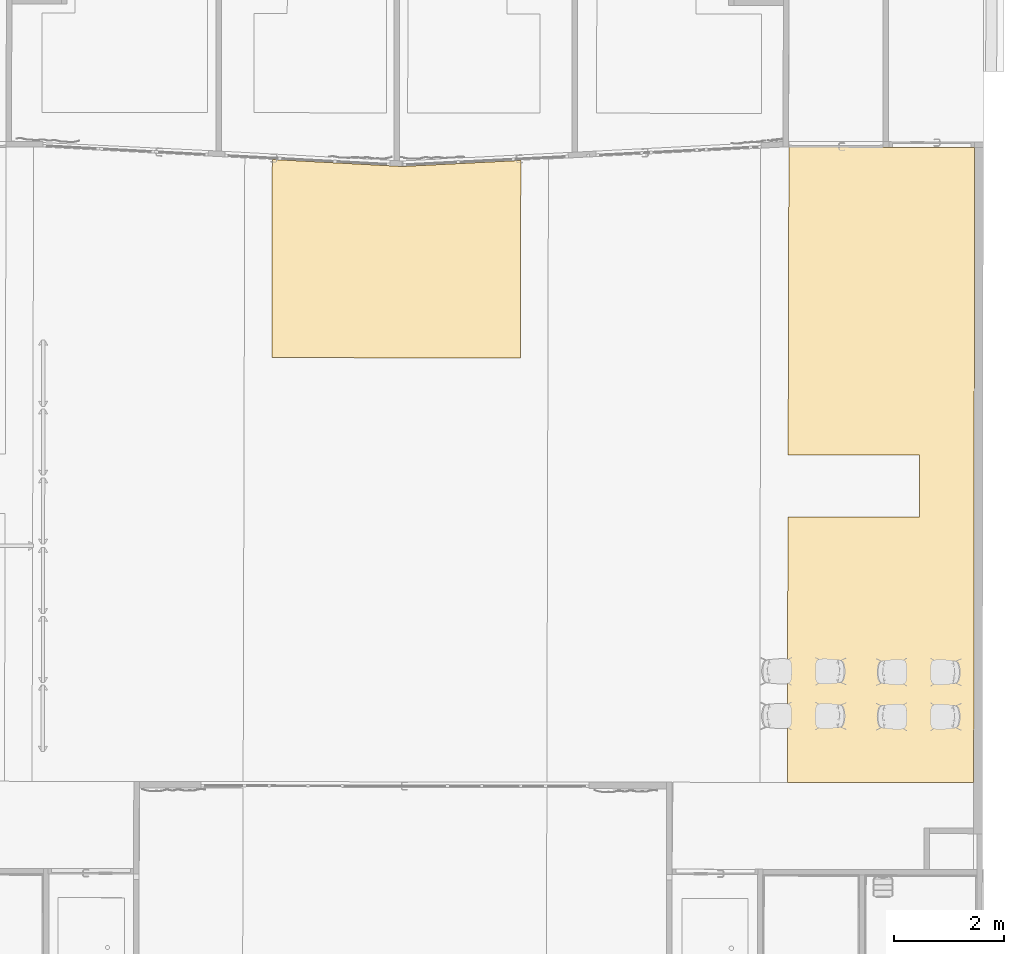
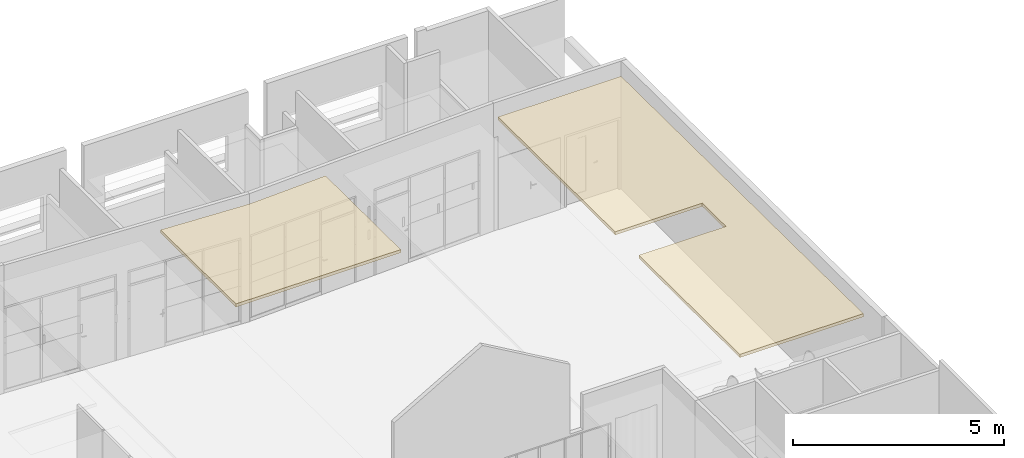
# One storey, part 34 of 43: 2 coverings.
"""IFC2X3 building model written with IfcOpenShell, lengths in metres."""

from ifc_helpers import new_model, entity, si_unit, converted_unit, derived_unit, direction, frame, origin, place, context, subcontext, project, spatial, faceted_brep, material, layer, layer_set, layer_usage, type_object, element, save


model = new_model("IFC2X3")

# Units and contexts
model_context = context("Model", 3, precision=1e-05, world=origin(), true_north=direction((6.123233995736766e-17, 1.0)))
body_context = subcontext(model_context, "Body", "Model", "MODEL_VIEW")
ifc_project = project(units=[si_unit("LENGTHUNIT", "METRE"), si_unit("AREAUNIT", "SQUARE_METRE"), converted_unit("PLANEANGLEUNIT", "DEGREE", entity("IfcPlaneAngleMeasure", 0.017453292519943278), si_unit("PLANEANGLEUNIT", "RADIAN"), dimensions=[0, 0, 0, 0, 0, 0, 0]), derived_unit("THERMALTRANSMITTANCEUNIT", [(si_unit("MASSUNIT", "GRAM", prefix="KILO"), 1), (si_unit("THERMODYNAMICTEMPERATUREUNIT", "KELVIN"), -1), (si_unit("TIMEUNIT", "SECOND"), -3)])], contexts=[model_context])

# Site, building, storey
site_placement = place(None, frame((1253.6752467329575, 2072.143113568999, 91.49999999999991), z_axis=(0.0, 0.0, 1.0), x_axis=(0.7237211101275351, 0.6900925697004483, 0.0)))
site = spatial("IfcSite", under=ifc_project, at=site_placement, Name="Surface", CompositionType="ELEMENT")
building_placement = place(site_placement, origin())
building = spatial("IfcBuilding", under=site, at=building_placement, CompositionType="ELEMENT")
storey_placement = place(building_placement, frame((0.0, 0.0, -4.629999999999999)))
storey = spatial("IfcBuildingStorey", under=building, at=storey_placement, Name="rez de rue -1.10m", CompositionType="ELEMENT", Elevation=-4.629999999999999)

# Coverings
ifc_material_1 = material(Name="Faux-plafond - Trame 600 x 600")
ifc_layer_1 = layer(ifc_material_1, 0.04)
ifc_material_2 = material(Name="Faux-plafond - Trame 600 x 1200")
ifc_layer_2 = layer(ifc_material_2, 0.05)
ifc_layer_set = layer_set([ifc_layer_1, ifc_layer_2], Name="Plafond composé:Dalles 60x120")
ifc_layer_usage_1 = layer_usage(ifc_layer_set, "AXIS3", "NEGATIVE", 0.09000000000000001)
covering_type = type_object("IfcCoveringType", Name="Plafond composé:Dalles 60x120", PredefinedType="CEILING")
covering_1_placement = place(storey_placement, frame((178.3074971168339, -7.7542457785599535, 3.173898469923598)))
element("IfcCovering", 1, at=covering_1_placement, inside=storey, type_object=covering_type, material=ifc_layer_usage_1, Name="Plafond composé:Dalles 60x120", ObjectType="Plafond composé:Dalles 60x120", PredefinedType="CEILING", context=body_context, shape_type="Brep", body=[
    faceted_brep([(4.113054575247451, 6.628682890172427, 0.14812083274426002), (5.83665866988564, 4.981108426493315, 0.14811998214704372), (5.057628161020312, 4.166128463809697, 0.15985791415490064), (3.3329054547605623, 5.814772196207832, 0.1598587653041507), (0.0, 2.337632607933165, 0.2100048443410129), (2.4443499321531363, 0.0, 0.21001195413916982), (10.410624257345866, 8.329807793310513, 0.09001195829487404), (7.975652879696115, 10.658471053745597, 0.09000487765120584), (4.113054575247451, 6.628682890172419, 0.05811595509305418), (7.975652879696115, 10.658471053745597, 0.0), (10.410624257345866, 8.329807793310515, 7.080643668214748e-06), (2.4443499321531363, 0.0, 0.12000707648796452), (0.0, 2.337632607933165, 0.11999996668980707), (3.3329054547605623, 5.814772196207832, 0.0698538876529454), (5.057628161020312, 4.166128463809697, 0.06985303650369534), (5.83665866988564, 4.981108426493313, 0.058115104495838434)], [[[0, 1, 2, 3, 4, 5, 6, 7]], [[8, 9, 10, 11, 12, 13, 14, 15]], [[1, 0, 8, 15]], [[2, 1, 15, 14]], [[3, 2, 14, 13]], [[4, 3, 13, 12]], [[5, 4, 12, 11]], [[6, 5, 11, 10]], [[7, 6, 10, 9]], [[0, 7, 9, 8]]]),
])
ifc_layer_usage_2 = layer_usage(ifc_layer_set, "AXIS3", "NEGATIVE", 0.09000000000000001)
covering_2_placement = place(storey_placement, frame((176.8569364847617, 3.4979251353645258, 3.3184916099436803)))
element("IfcCovering", 2, at=covering_2_placement, inside=storey, type_object=covering_type, material=ifc_layer_usage_2, Name="Plafond composé:Dalles 60x120", ObjectType="Plafond composé:Dalles 60x120", PredefinedType="CEILING", context=body_context, shape_type="Brep", body=[
    faceted_brep([(0.0, 3.117027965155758, 0.12886553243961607), (3.2593264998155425, 0.0, 0.127804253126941), (5.739756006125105, 2.5877720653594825, 0.0900050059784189), (4.106215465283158, 3.9939086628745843, 0.09170101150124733), (2.4878653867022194, 5.7125556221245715, 0.09095298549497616), (0.0, 3.1170279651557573, 0.03886052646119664), (2.4878653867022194, 5.712555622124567, 0.0009479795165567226), (4.106215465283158, 3.993908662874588, 0.0016960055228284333), (5.739756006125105, 2.5877720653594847, 0.0), (3.2593264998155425, 0.0, 0.0377992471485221)], [[[0, 1, 2, 3, 4]], [[5, 6, 7, 8, 9]], [[1, 0, 5, 9]], [[2, 1, 9, 8]], [[0, 4, 6, 5]], [[3, 2, 8, 7]], [[4, 3, 7, 6]]]),
])

save(model, "model.ifc")
